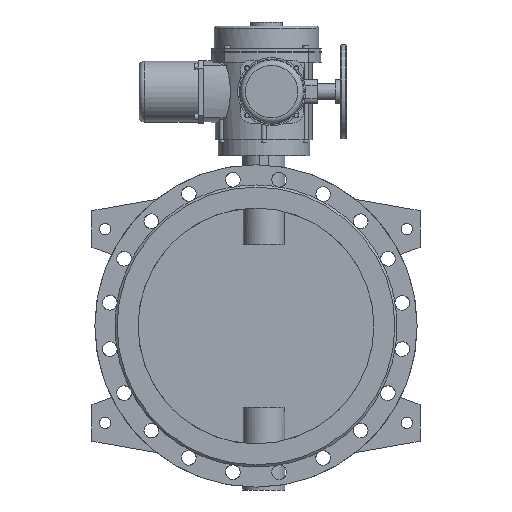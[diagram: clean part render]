
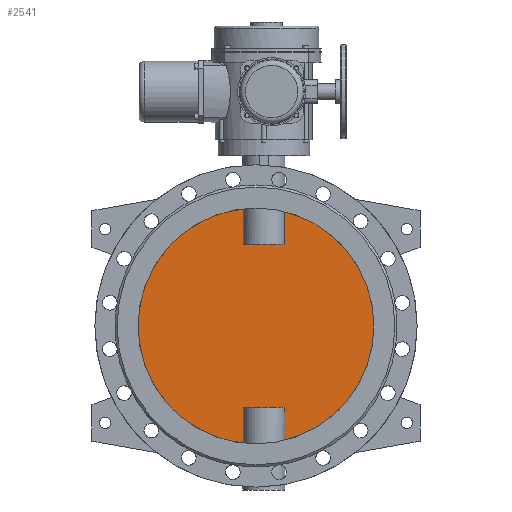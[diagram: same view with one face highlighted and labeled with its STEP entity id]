
A CAD part, front view. The second image highlights one B-rep face of the part: STEP entity #2541.
In plain terms, the highlighted planar face has unit normal (0, -1, 0).
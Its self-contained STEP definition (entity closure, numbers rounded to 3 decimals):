
#2541=ADVANCED_FACE('',(#6461),#6463,.F.);
#6461=FACE_BOUND('',#6462,.T.);
#6462=EDGE_LOOP('',(#8866,#8867,#8868,#8869,#8870,#8871,#8872,#8873));
#6463=PLANE('',#6464);
#6464=AXIS2_PLACEMENT_3D('',#6465,#6466,#6467);
#6465=CARTESIAN_POINT('',(0.,-5.,0.));
#6466=DIRECTION('',(0.,1.,0.));
#6467=DIRECTION('',(1.,0.,0.));
#8866=ORIENTED_EDGE('',*,*,#10111,.T.);
#8867=ORIENTED_EDGE('',*,*,#10127,.T.);
#8868=ORIENTED_EDGE('',*,*,#10128,.T.);
#8869=ORIENTED_EDGE('',*,*,#10129,.T.);
#8870=ORIENTED_EDGE('',*,*,#10113,.T.);
#8871=ORIENTED_EDGE('',*,*,#10130,.T.);
#8872=ORIENTED_EDGE('',*,*,#10131,.T.);
#8873=ORIENTED_EDGE('',*,*,#10132,.T.);
#10111=EDGE_CURVE('',#11648,#11649,#11650,.F.);
#10113=EDGE_CURVE('',#11653,#11651,#11654,.F.);
#10127=EDGE_CURVE('',#11649,#11676,#11677,.T.);
#10128=EDGE_CURVE('',#11676,#11678,#11679,.F.);
#10129=EDGE_CURVE('',#11678,#11653,#11680,.F.);
#10130=EDGE_CURVE('',#11651,#11681,#11682,.F.);
#10131=EDGE_CURVE('',#11681,#11683,#11684,.F.);
#10132=EDGE_CURVE('',#11683,#11648,#11685,.T.);
#11648=VERTEX_POINT('',#18760);
#11649=VERTEX_POINT('',#18761);
#11650=CIRCLE('',#18762,225.);
#11651=VERTEX_POINT('',#18766);
#11653=VERTEX_POINT('',#18852);
#11654=CIRCLE('',#18853,225.);
#11676=VERTEX_POINT('',#19018);
#11677=LINE('',#19019,#19020);
#11678=VERTEX_POINT('',#19022);
#11679=LINE('',#19023,#19024);
#11680=LINE('',#19026,#19027);
#11681=VERTEX_POINT('',#19029);
#11682=LINE('',#19030,#19031);
#11683=VERTEX_POINT('',#19033);
#11684=LINE('',#19034,#19035);
#11685=LINE('',#19037,#19038);
#18760=CARTESIAN_POINT('',(54.686,-5.,-218.253));
#18761=CARTESIAN_POINT('',(54.686,-5.,218.253));
#18762=AXIS2_PLACEMENT_3D('',#18763,#18764,#18765);
#18763=CARTESIAN_POINT('',(0.,-5.,0.));
#18764=DIRECTION('',(0.,1.,0.));
#18765=DIRECTION('',(0.243,0.,0.97));
#18766=CARTESIAN_POINT('',(-24.686,-5.,-223.642));
#18852=CARTESIAN_POINT('',(-24.686,-5.,223.642));
#18853=AXIS2_PLACEMENT_3D('',#18854,#18855,#18856);
#18854=CARTESIAN_POINT('',(0.,-5.,0.));
#18855=DIRECTION('',(0.,1.,0.));
#18856=DIRECTION('',(-0.11,0.,-0.994));
#19018=CARTESIAN_POINT('',(54.686,-5.,155.));
#19019=CARTESIAN_POINT('',(54.686,-5.,218.253));
#19020=VECTOR('',#19021,1.);
#19021=DIRECTION('',(0.,0.,-1.));
#19022=CARTESIAN_POINT('',(-24.686,-5.,155.));
#19023=CARTESIAN_POINT('',(-24.686,-5.,155.));
#19024=VECTOR('',#19025,1.);
#19025=DIRECTION('',(1.,0.,0.));
#19026=CARTESIAN_POINT('',(-24.686,-5.,223.642));
#19027=VECTOR('',#19028,1.);
#19028=DIRECTION('',(0.,0.,-1.));
#19029=CARTESIAN_POINT('',(-24.686,-5.,-155.));
#19030=CARTESIAN_POINT('',(-24.686,-5.,-155.));
#19031=VECTOR('',#19032,1.);
#19032=DIRECTION('',(0.,0.,-1.));
#19033=CARTESIAN_POINT('',(54.686,-5.,-155.));
#19034=CARTESIAN_POINT('',(54.686,-5.,-155.));
#19035=VECTOR('',#19036,1.);
#19036=DIRECTION('',(-1.,0.,0.));
#19037=CARTESIAN_POINT('',(54.686,-5.,-155.));
#19038=VECTOR('',#19039,1.);
#19039=DIRECTION('',(0.,0.,-1.));
